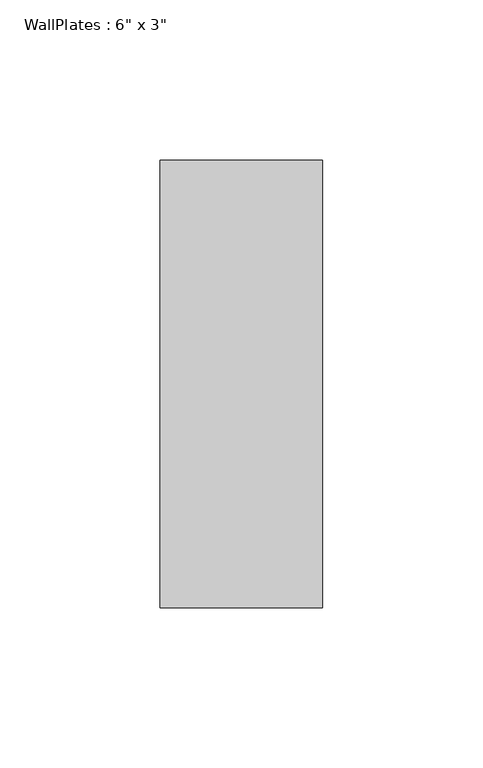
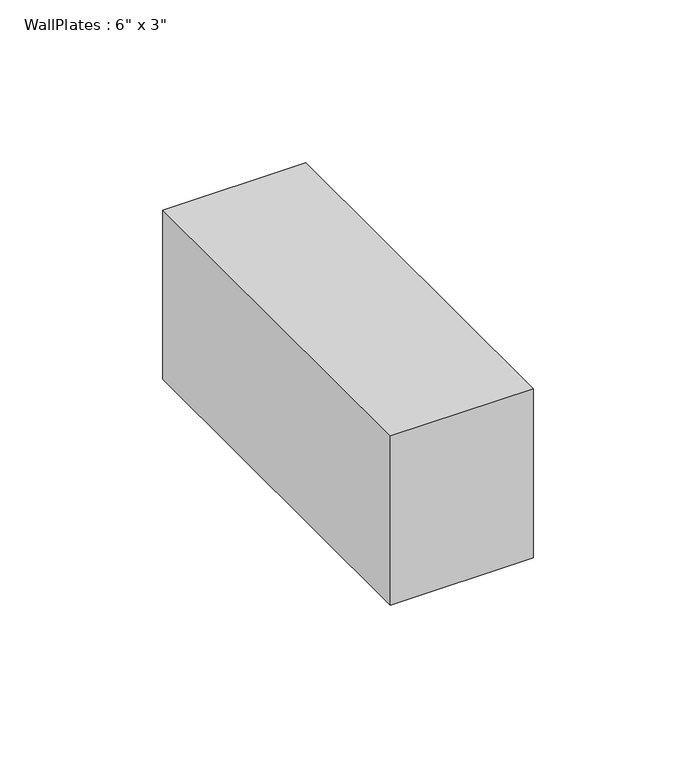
"""IFC4 building model written with IfcOpenShell, lengths in millimetres: beam geometry."""

from ifc_helpers import new_model, si_unit, frame, origin, place, context, project, spatial, polyline, outline, extrude, source, transform, mapped, element, save


def beam_dd90ffe3(model_context):
    return source(origin(), model_context, "Body", "SweptSolid", [
        extrude(outline(polyline([(-25.4049873, -69.85), (-25.4049873, 69.85), (25.4049873, 69.85), (25.4049873, -69.85), (-25.4049873, -69.85)])), frame((0.0, 0.0, -31.75), z_axis=(0.0, 0.0, 1.0), x_axis=(1.0, 0.0, 0.0)), (0.0, 0.0, 1.0), 63.5),
    ])


if __name__ == "__main__":
    model = new_model("IFC4")
    model_context = context("Model", 3, world=origin())
    ifc_project = project(units=[si_unit("LENGTHUNIT", "METRE", prefix="MILLI")], contexts=[model_context])
    site = spatial("IfcSite", under=ifc_project)
    building = spatial("IfcBuilding", under=site)
    placement = place(None, origin())
    beam_shape = beam_dd90ffe3(model_context)
    element("IfcBeam", 1, ObjectType="WallPlates : 6\" x 3\"", at=placement, inside=building, context=model_context, shape_type="MappedRepresentation", body=[
        mapped(beam_shape, transform((0.0, 0.0, 0.0), x_axis=(1.0, 0.0, 0.0), y_axis=(0.0, 1.0, 0.0), z_axis=(0.0, 0.0, 1.0))),
    ])
    save(model, "model.ifc")
